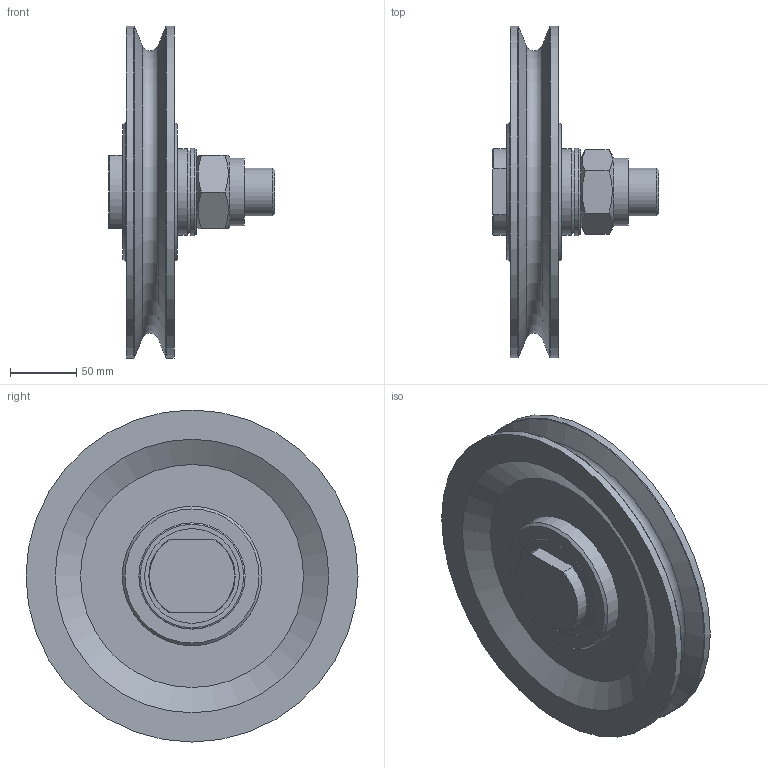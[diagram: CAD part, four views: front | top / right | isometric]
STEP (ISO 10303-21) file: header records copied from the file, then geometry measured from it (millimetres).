
FILE_DESCRIPTION(/* description */ ('Seilrolle ø250 feststehende Achse'),/* implementation_level */ '2;1');
FILE_NAME(/* name */ 'Z:\Workspace\03 Seilrollen\1.408 K Seilrollen feststehende Achse Kugellager\1.408.07 K Seilrolle ø250 feststehende Achse KL\1.408.07 K Seilrolle ø250 feststehende Achse.stp',/* time_stamp */ '2021-10-11T09:28:33+02:00',/* author */ ('cad-user'),/* organization */ (''),/* preprocessor_version */ 'ST-DEVELOPER v18',/* originating_system */ 'Autodesk Inventor 2020',/* authorisation */ '');
FILE_SCHEMA (('AUTOMOTIVE_DESIGN { 1 0 10303 214 3 1 1 }'));
Length unit declared in the file: millimetre
Products named in the file (13): 1.408.07 K Seilrolle ø250 feststehende Achse; 1.402.07 Seilrolle ø250 Kugellager komplett; 1.402.07 Seilrolle ø250 Kugellager; DIN625 - 6208-2RS; din625_-_6208-2rs_0_05; din625_-_6208-2rs_0_04; din625_-_6208-2rs_0_03; din625_-_6208-2rs_0_02; din625_-_6208-2rs_0_01; 1.408.07.02 Scheibe; 1.408.07.01 Schraube; DIN 985 - M36; DIN 125-1 - B 37
Assembly tree (13 placements, depth 4):
  1.408.07 K Seilrolle ø250 feststehende Achse
    1.402.07 Seilrolle ø250 Kugellager komplett
      1.402.07 Seilrolle ø250 Kugellager
      DIN625 - 6208-2RS  x2
        din625_-_6208-2rs_0_05
        din625_-_6208-2rs_0_04
        din625_-_6208-2rs_0_03
        din625_-_6208-2rs_0_02
        din625_-_6208-2rs_0_01
    1.408.07.02 Scheibe
    1.408.07.01 Schraube
    DIN 985 - M36
    DIN 125-1 - B 37
Bounding box: 125 x 250 x 250 mm (x, y, z)
Volume: 1316401.7 mm3; surface area: 268051.3 mm2
Topology: 15 solids, 15 shells, 163 faces, 442 edges, 321 vertices
Faces by surface type: plane 50, cylinder 45, torus 33, sphere 18, cone 17
Full cylindrical faces by diameter (mm): 31.67 x1, 36 x1, 37 x1, 38 x1, 40 x3, 48 x8, 51.1 x1, 52 x4, 65 x1, 66 x1, 68 x4, 70 x1, 71.2 x8, 80 x4, 105 x2, 250 x2
Entity records: 4630 total; most frequent: CARTESIAN_POINT 1282, DIRECTION 666, ORIENTED_EDGE 556, AXIS2_PLACEMENT_3D 305, EDGE_CURVE 278, VERTEX_POINT 213, CIRCLE 166, EDGE_LOOP 159
